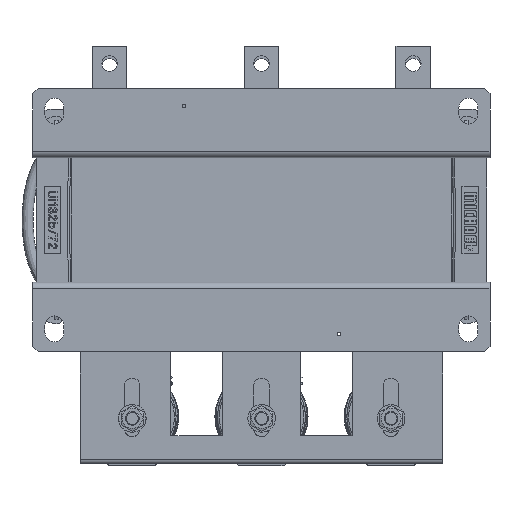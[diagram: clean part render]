
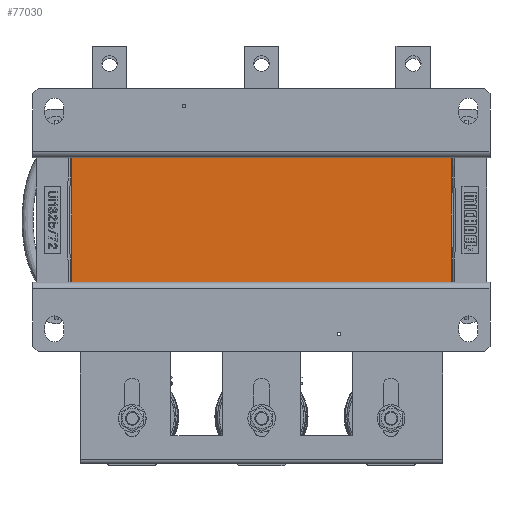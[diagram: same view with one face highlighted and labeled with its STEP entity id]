
A CAD part, front view. The second image highlights one B-rep face of the part: STEP entity #77030.
In plain terms, the highlighted planar face has unit normal (0, -1, 0).
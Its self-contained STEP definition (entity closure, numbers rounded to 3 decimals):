
#4417=PLANE('',#82860);
#8211=FACE_OUTER_BOUND('',#12526,.T.);
#12526=EDGE_LOOP('',(#66736,#66737,#66738,#66739));
#21941=LINE('',#125858,#29376);
#22013=LINE('',#126051,#29448);
#22212=LINE('',#126597,#29647);
#22217=LINE('',#126605,#29652);
#29376=VECTOR('',#100323,10.);
#29448=VECTOR('',#100513,10.);
#29647=VECTOR('',#101116,10.);
#29652=VECTOR('',#101127,10.);
#36226=VERTEX_POINT('',#125841);
#36233=VERTEX_POINT('',#125856);
#36286=VERTEX_POINT('',#126032);
#36295=VERTEX_POINT('',#126049);
#46333=EDGE_CURVE('',#36233,#36226,#21941,.T.);
#46427=EDGE_CURVE('',#36295,#36286,#22013,.T.);
#46697=EDGE_CURVE('',#36295,#36226,#22212,.T.);
#46702=EDGE_CURVE('',#36233,#36286,#22217,.T.);
#66736=ORIENTED_EDGE('',*,*,#46702,.T.);
#66737=ORIENTED_EDGE('',*,*,#46427,.F.);
#66738=ORIENTED_EDGE('',*,*,#46697,.T.);
#66739=ORIENTED_EDGE('',*,*,#46333,.F.);
#77030=ADVANCED_FACE('',(#8211),#4417,.T.);
#82860=AXIS2_PLACEMENT_3D('',#126629,#101165,#101166);
#100323=DIRECTION('',(-1.,0.,0.));
#100513=DIRECTION('',(1.,0.,0.));
#101116=DIRECTION('',(0.,0.,-1.));
#101127=DIRECTION('',(0.,0.,1.));
#101165=DIRECTION('center_axis',(0.,-1.,0.));
#101166=DIRECTION('ref_axis',(1.,0.,0.));
#125841=CARTESIAN_POINT('',(-110.,-105.8,-36.1));
#125856=CARTESIAN_POINT('',(110.,-105.8,-36.1));
#125858=CARTESIAN_POINT('',(110.,-105.8,-36.1));
#126032=CARTESIAN_POINT('',(110.,-105.8,36.1));
#126049=CARTESIAN_POINT('',(-110.,-105.8,36.1));
#126051=CARTESIAN_POINT('',(110.,-105.8,36.1));
#126597=CARTESIAN_POINT('',(-110.,-105.8,0.));
#126605=CARTESIAN_POINT('',(110.,-105.8,0.));
#126629=CARTESIAN_POINT('Origin',(-110.,-105.8,0.));
